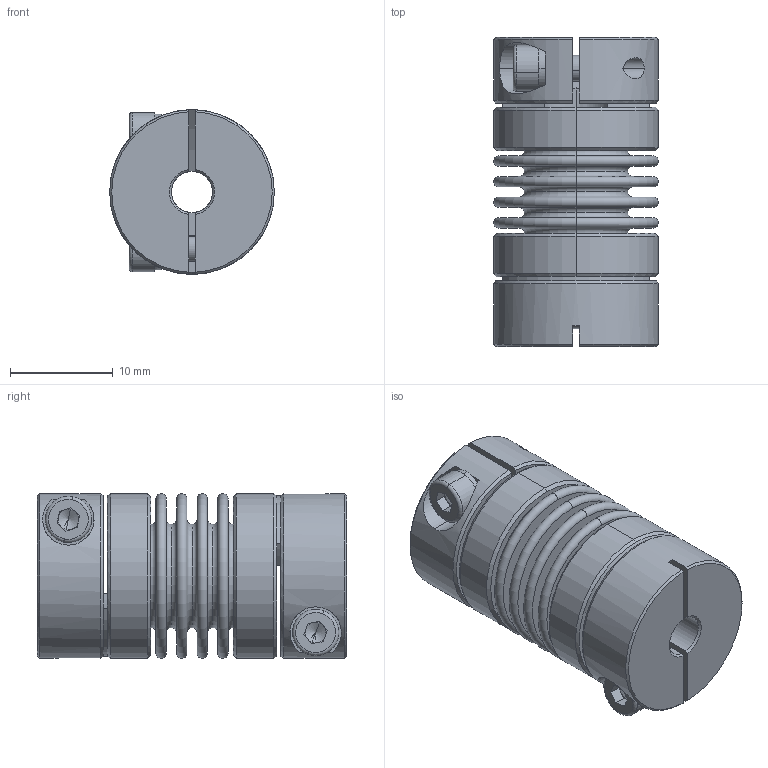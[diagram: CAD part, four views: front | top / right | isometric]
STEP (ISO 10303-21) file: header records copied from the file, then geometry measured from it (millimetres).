
FILE_DESCRIPTION (( 'STEP AP203' ), '1' );
FILE_NAME ('LB-B-D16L30-4-7.STEP', '2021-11-04T01:12:33', ( '' ), ( '' ), 'SwSTEP 2.0', 'SolidWorks 2018', '' );
FILE_SCHEMA (( 'CONFIG_CONTROL_DESIGN' ));
Length unit declared in the file: millimetre
Products named in the file (2): LB-B-D16L30-4-7; 零件1^LB-B-D16L30 波纹管联轴器-组装体
Assembly tree (1 placements, depth 2):
  LB-B-D16L30-4-7
    零件1^LB-B-D16L30 波纹管联轴器-组装体
Bounding box: 16 x 30.04 x 16 mm (x, y, z)
Volume: 3174 mm3; surface area: 6446.4 mm2
Topology: 1 solids, 1 shells, 254 faces, 586 edges, 362 vertices
Faces by surface type: plane 86, torus 68, cylinder 66, cone 34
Entity records: 7660 total; most frequent: CARTESIAN_POINT 1472, DIRECTION 1420, ORIENTED_EDGE 1164, AXIS2_PLACEMENT_3D 622, EDGE_CURVE 582, CIRCLE 364, VERTEX_POINT 362, EDGE_LOOP 296
